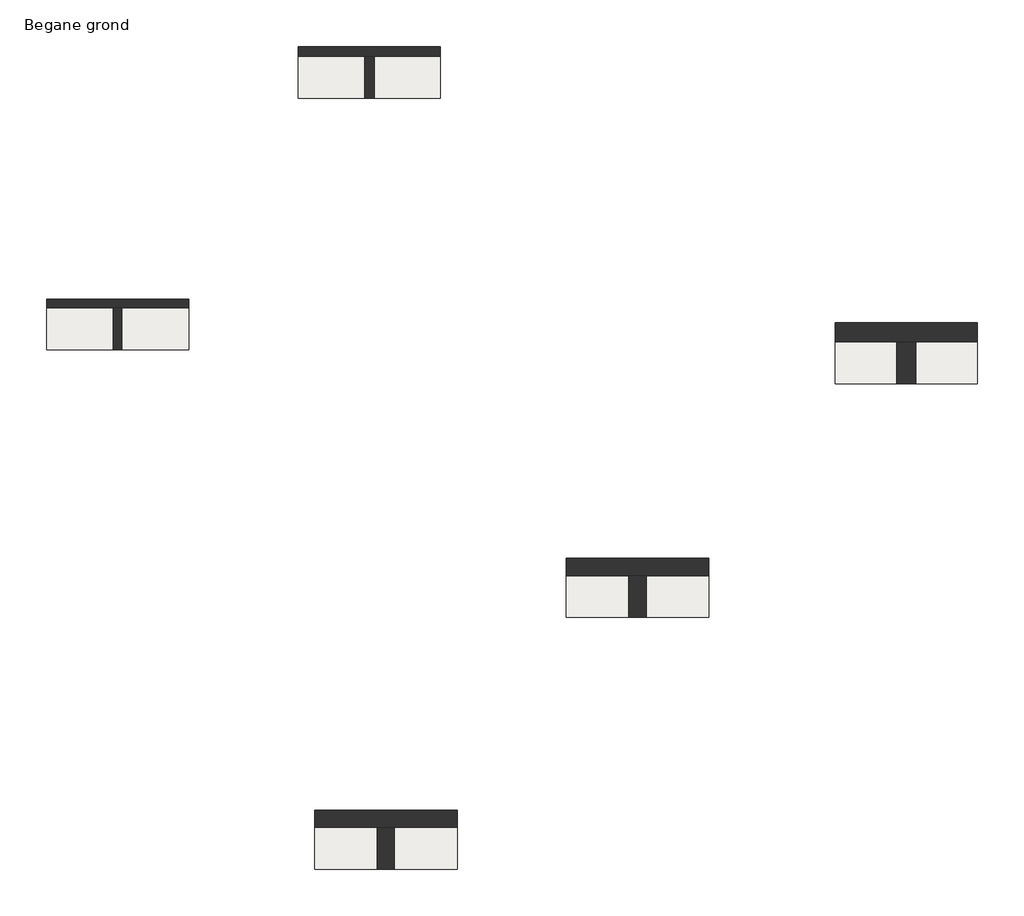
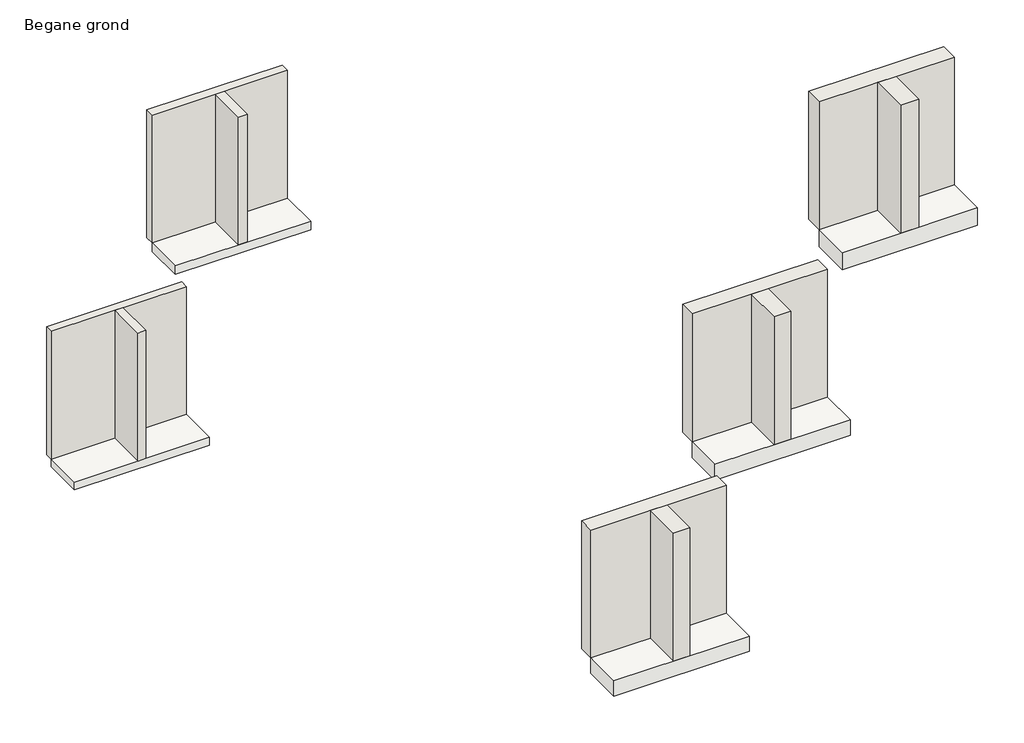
# One storey: 10 walls, 5 slabs.
"""IFC4 building model written with IfcOpenShell, lengths in millimetres."""

from ifc_helpers import new_model, si_unit, frame, origin, origin_with_axes, place, context, project, spatial, polyline, outline, extrude, element, save

model = new_model("IFC4")

# Units and contexts
model_context = context("Model", 3, world=origin())
ifc_project = project(units=[si_unit("LENGTHUNIT", "METRE", prefix="MILLI")], contexts=[model_context])

# Site, building, storey
site = spatial("IfcSite", under=ifc_project)
building = spatial("IfcBuilding", under=site)
storey = spatial("IfcBuildingStorey", under=building, Name="Begane grond", Elevation=0.0)

# Slabs
placement = place(None, origin())
element("IfcSlab", 1, ObjectType="NLRS_23_FL_Naturoll 033_120x590x3300mm", at=placement, inside=storey, context=model_context, shape_type="SweptSolid", body=[
    extrude(outline(polyline([(1521.8413744, 3002.3983371), (1521.8413744, 2412.3983371), (-478.1586256, 2412.3983371), (-478.1586256, 3002.3983371), (1521.8413744, 3002.3983371)])), frame((0.0, 0.0, -120.0), z_axis=(0.0, 0.0, 1.0), x_axis=(1.0, 0.0, 0.0)), (0.0, 0.0, 1.0), 120.0),
])
element("IfcSlab", 2, ObjectType="NLRS_23_FL_Naturoll 033_135x590x3900mm", at=placement, inside=storey, context=model_context, shape_type="SweptSolid", body=[
    extrude(outline(polyline([(5057.3752803, 6537.9322431), (5057.3752803, 5947.9322431), (3057.3752803, 5947.9322431), (3057.3752803, 6537.9322431), (5057.3752803, 6537.9322431)])), frame((0.0, 0.0, -135.0), z_axis=(0.0, 0.0, 1.0), x_axis=(1.0, 0.0, 0.0)), (0.0, 0.0, 1.0), 135.0),
])
element("IfcSlab", 3, ObjectType="NLRS_23_FL_Naturoll 033_240x590x2000mm", at=placement, inside=storey, context=model_context, shape_type="SweptSolid", body=[
    extrude(outline(polyline([(5289.6940688, -4296.6807597), (5289.6940688, -4886.6807597), (3289.6940688, -4886.6807597), (3289.6940688, -4296.6807597), (5289.6940688, -4296.6807597)])), frame((0.0, 0.0, -240.0), z_axis=(0.0, 0.0, 1.0), x_axis=(1.0, 0.0, 0.0)), (0.0, 0.0, 1.0), 240.0),
])
element("IfcSlab", 4, ObjectType="NLRS_23_FL_Naturoll 033_245x580x2000mm", at=placement, inside=storey, context=model_context, shape_type="SweptSolid", body=[
    extrude(outline(polyline([(8825.2279747, -766.1468538), (8825.2279747, -1346.1468538), (6825.2279747, -1346.1468538), (6825.2279747, -766.1468538), (8825.2279747, -766.1468538)])), frame((0.0, 0.0, -245.0), z_axis=(0.0, 0.0, 1.0), x_axis=(1.0, 0.0, 0.0)), (0.0, 0.0, 1.0), 245.0),
])
element("IfcSlab", 5, ObjectType="NLRS_23_FL_Naturoll 033_270x590x2500mm", at=placement, inside=storey, context=model_context, shape_type="SweptSolid", body=[
    extrude(outline(polyline([(12603.231085, 2523.3028409), (12603.231085, 1933.3028409), (10603.231085, 1933.3028409), (10603.231085, 2523.3028409), (12603.231085, 2523.3028409)])), frame((0.0, 0.0, -270.0), z_axis=(0.0, 0.0, 1.0), x_axis=(1.0, 0.0, 0.0)), (0.0, 0.0, 1.0), 270.0),
])

# Walls
element("IfcWall", 6, ObjectType="NLRS_21_WA_Naturoll 033_120x590x3300mm", at=placement, inside=storey, context=model_context, shape_type="SweptSolid", body=[
    extrude(outline(polyline([(1521.8413744, 3002.3983371), (-478.1586256, 3002.3983371), (-478.1586256, 3122.3983371), (1521.8413744, 3122.3983371), (1521.8413744, 3002.3983371)])), origin_with_axes(), (0.0, 0.0, 1.0), 2000.0),
])
element("IfcWall", 7, ObjectType="NLRS_21_WA_Naturoll 033_120x590x3300mm", at=placement, inside=storey, context=model_context, shape_type="SweptSolid", body=[
    extrude(outline(polyline([(461.8413744, 2412.3983371), (461.8413744, 3002.3983371), (581.8413744, 3002.3983371), (581.8413744, 2412.3983371), (461.8413744, 2412.3983371)])), origin_with_axes(), (0.0, 0.0, 1.0), 2000.0),
])
element("IfcWall", 8, ObjectType="NLRS_21_WA_Naturoll 033_135x590x3900mm", at=placement, inside=storey, context=model_context, shape_type="SweptSolid", body=[
    extrude(outline(polyline([(5057.3752803, 6537.9322431), (3057.3752803, 6537.9322431), (3057.3752803, 6672.9322431), (5057.3752803, 6672.9322431), (5057.3752803, 6537.9322431)])), origin_with_axes(), (0.0, 0.0, 1.0), 2000.0),
])
element("IfcWall", 9, ObjectType="NLRS_21_WA_Naturoll 033_135x590x3900mm", at=placement, inside=storey, context=model_context, shape_type="SweptSolid", body=[
    extrude(outline(polyline([(3989.8752803, 5947.9322431), (3989.8752803, 6537.9322431), (4124.8752803, 6537.9322431), (4124.8752803, 5947.9322431), (3989.8752803, 5947.9322431)])), origin_with_axes(), (0.0, 0.0, 1.0), 2000.0),
])
element("IfcWall", 10, ObjectType="NLRS_21_WA_Naturoll 033_240x590x2000mm", at=placement, inside=storey, context=model_context, shape_type="SweptSolid", body=[
    extrude(outline(polyline([(5289.6940688, -4296.6807597), (3289.6940688, -4296.6807597), (3289.6940688, -4056.6807597), (5289.6940688, -4056.6807597), (5289.6940688, -4296.6807597)])), origin_with_axes(), (0.0, 0.0, 1.0), 2000.0),
])
element("IfcWall", 11, ObjectType="NLRS_21_WA_Naturoll 033_240x590x2000mm", at=placement, inside=storey, context=model_context, shape_type="SweptSolid", body=[
    extrude(outline(polyline([(4169.6940688, -4886.6807597), (4169.6940688, -4296.6807597), (4409.6940688, -4296.6807597), (4409.6940688, -4886.6807597), (4169.6940688, -4886.6807597)])), origin_with_axes(), (0.0, 0.0, 1.0), 2000.0),
])
element("IfcWall", 12, ObjectType="NLRS_21_WA_Naturoll 033_245x580x2000mm", at=placement, inside=storey, context=model_context, shape_type="SweptSolid", body=[
    extrude(outline(polyline([(8825.2279747, -766.1468538), (6825.2279747, -766.1468538), (6825.2279747, -521.1468538), (8825.2279747, -521.1468538), (8825.2279747, -766.1468538)])), origin_with_axes(), (0.0, 0.0, 1.0), 2000.0),
])
element("IfcWall", 13, ObjectType="NLRS_21_WA_Naturoll 033_245x580x2000mm", at=placement, inside=storey, context=model_context, shape_type="SweptSolid", body=[
    extrude(outline(polyline([(7702.7279747, -1346.1468538), (7702.7279747, -766.1468538), (7947.7279747, -766.1468538), (7947.7279747, -1346.1468538), (7702.7279747, -1346.1468538)])), origin_with_axes(), (0.0, 0.0, 1.0), 2000.0),
])
element("IfcWall", 14, ObjectType="NLRS_21_WA_Naturoll 033_270x590x2500mm", at=placement, inside=storey, context=model_context, shape_type="SweptSolid", body=[
    extrude(outline(polyline([(12603.231085, 2523.3028409), (10603.231085, 2523.3028409), (10603.231085, 2793.3028409), (12603.231085, 2793.3028409), (12603.231085, 2523.3028409)])), origin_with_axes(), (0.0, 0.0, 1.0), 2000.0),
])
element("IfcWall", 15, ObjectType="NLRS_21_WA_Naturoll 033_270x590x2500mm", at=placement, inside=storey, context=model_context, shape_type="SweptSolid", body=[
    extrude(outline(polyline([(11468.231085, 1933.3028409), (11468.231085, 2523.3028409), (11738.231085, 2523.3028409), (11738.231085, 1933.3028409), (11468.231085, 1933.3028409)])), origin_with_axes(), (0.0, 0.0, 1.0), 2000.0),
])

save(model, "model.ifc")
